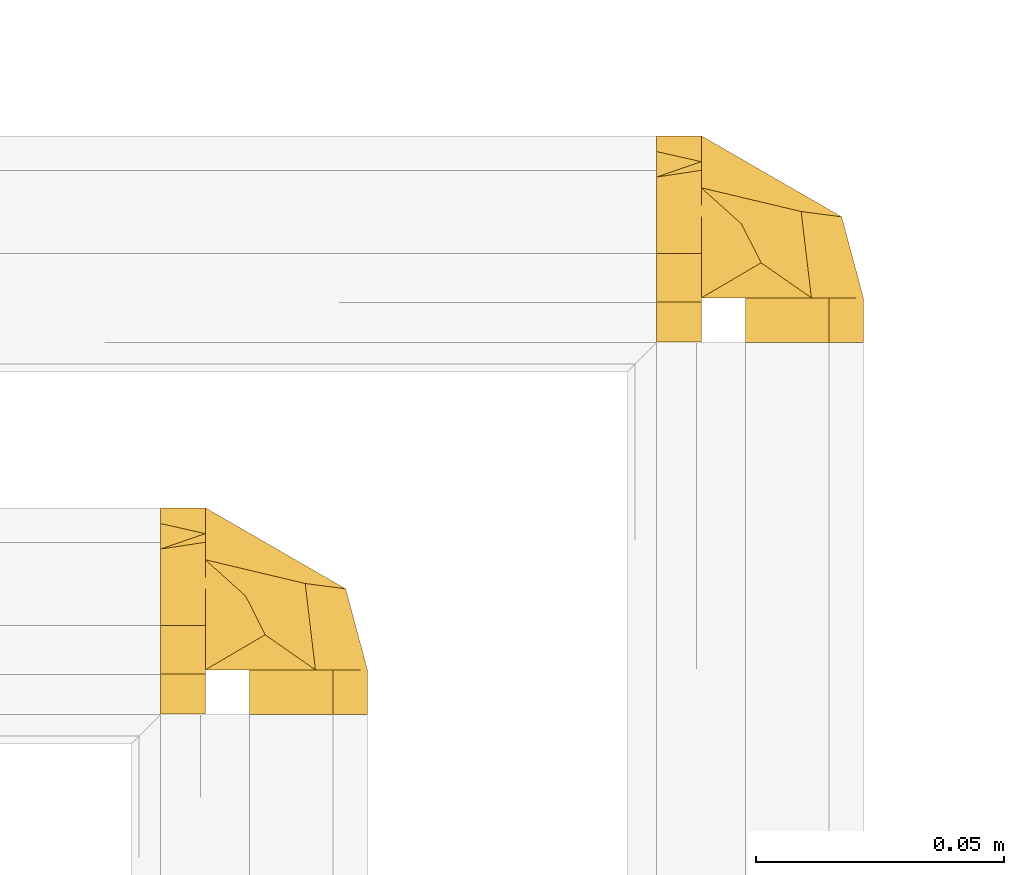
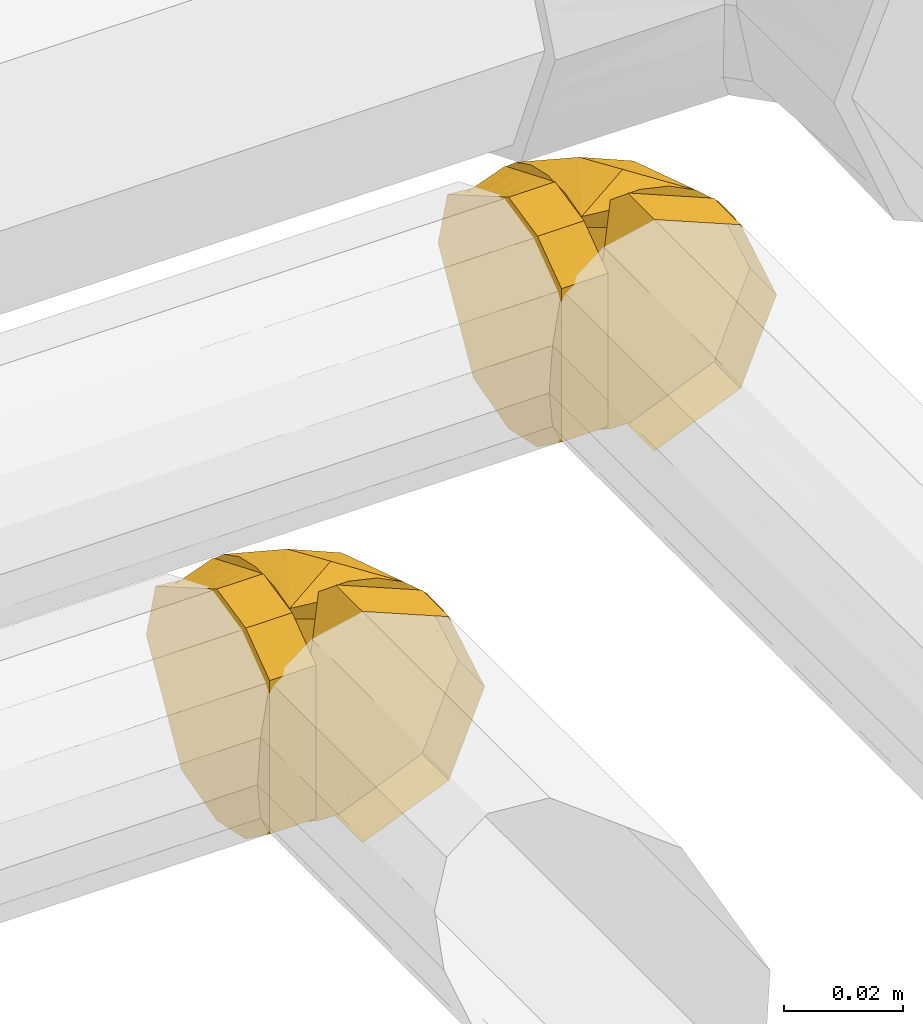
# One storey, part 373 of 652: 2 coverings.
"""IFC2X3 building model written with IfcOpenShell, lengths in millimetres."""

from ifc_helpers import new_model, entity, si_unit, converted_unit, direction, frame, origin, place, context, subcontext, project, spatial, face_set, surface_model, material, type_object, element, save


model = new_model("IFC2X3")

# Units and contexts
model_context = context("Model", 3, precision=0.01, world=frame((0.0, 0.0, 308426.39999999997)), true_north=direction((6.123233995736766e-17, 1.0)))
plan_context = context("Plan", 3, precision=0.01, world=frame((0.0, 0.0, 308426.39999999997)), true_north=direction((6.123233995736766e-17, 1.0)))
body_context = subcontext(model_context, "Body", "Model", "MODEL_VIEW")
ifc_project = project(units=[si_unit("LENGTHUNIT", "METRE", prefix="MILLI"), si_unit("AREAUNIT", "SQUARE_METRE"), si_unit("VOLUMEUNIT", "CUBIC_METRE"), converted_unit("PLANEANGLEUNIT", "DEGREE", entity("IfcPlaneAngleMeasure", 0.017453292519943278), si_unit("PLANEANGLEUNIT", "RADIAN"), dimensions=[0, 0, 0, 0, 0, 0, 0])], contexts=[model_context, plan_context])

# Site, building, storey
site_placement = place(None, origin())
site = spatial("IfcSite", under=ifc_project, at=site_placement, Name="Default", CompositionType="ELEMENT")
building_placement = place(site_placement, origin())
building = spatial("IfcBuilding", under=site, at=building_placement, CompositionType="ELEMENT")
storey_placement = place(building_placement, frame((0.0, 0.0, 1730.6999999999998)))
storey = spatial("IfcBuildingStorey", under=building, at=storey_placement, Name="EG_Produktion_FFB", CompositionType="ELEMENT", Elevation=1730.6999999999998)

# Coverings
ifc_material = material(Name="Dämmung - Armaflex-Schlauch")
covering_type = type_object("IfcCoveringType", Name="Rohrdämmung außen:Armaflex-Schlauch", PredefinedType="INSULATION")
covering_1_placement = place(storey_placement, frame((73285.61107910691, 41405.60952881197, 2539.5951524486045)))
element("IfcCovering", 1, at=covering_1_placement, inside=storey, type_object=covering_type, material=ifc_material, Name="Rohrdämmung außen:Armaflex-Schlauch", ObjectType="Rohrdämmung außen:Armaflex-Schlauch", PredefinedType="INSULATION", context=body_context, shape_type="SurfaceModel", body=[
    surface_model("IfcFaceBasedSurfaceModel", [(10.458420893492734, 10.458420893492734, 3.3372686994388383), (16.054796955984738, 10.458420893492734, 1.830340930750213), (21.84951324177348, 10.458420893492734, 1.723011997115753), (27.497853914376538, 10.458420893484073, 3.0216666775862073), (32.66381072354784, 10.458420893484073, 5.649050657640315), (37.04007144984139, 10.458420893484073, 9.448866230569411), (40.36630128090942, 10.458420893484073, 14.195070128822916), (42.44462959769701, 10.458420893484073, 19.605320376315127), (43.151420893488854, 10.458420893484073, 25.357772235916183), (42.44462959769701, 10.458420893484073, 31.11022409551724), (40.36630128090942, 10.458420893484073, 36.52047434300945), (37.04007144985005, 10.458420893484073, 41.26667824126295), (32.66381072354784, 10.458420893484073, 45.06649381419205), (27.497853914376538, 10.458420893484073, 47.693877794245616), (21.84951324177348, 10.458420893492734, 48.99253247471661), (16.054796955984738, 10.458420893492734, 48.885203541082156), (10.458420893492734, 10.458420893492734, 47.37827577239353), (10.458420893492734, 16.054796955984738, 48.885203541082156), (10.458420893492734, 21.84951324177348, 48.99253247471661), (10.458420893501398, 27.497853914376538, 47.693877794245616), (10.458420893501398, 32.66381072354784, 45.06649381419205), (10.458420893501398, 37.04007144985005, 41.26667824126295), (10.458420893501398, 40.36630128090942, 36.52047434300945), (10.458420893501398, 42.44462959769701, 31.11022409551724), (10.458420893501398, 43.151420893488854, 25.357772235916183), (10.458420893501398, 42.44462959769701, 19.605320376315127), (10.458420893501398, 40.36630128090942, 14.195070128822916), (10.458420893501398, 37.04007144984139, 9.448866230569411), (10.458420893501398, 32.66381072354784, 5.649050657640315), (10.458420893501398, 27.497853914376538, 3.0216666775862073), (10.458420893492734, 21.84951324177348, 1.723011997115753), (10.458420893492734, 16.054796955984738, 1.830340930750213), (18.579631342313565, 25.363896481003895, 2.9986616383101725), (30.592851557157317, 27.880021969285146, 9.49913694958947), (10.459196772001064, 21.433903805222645, 4.479675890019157), (37.969145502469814, 10.457829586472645, 15.617949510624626), (38.769096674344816, 26.805668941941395, 25.35776198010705), (10.459196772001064, 37.90731689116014, 15.503421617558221), (23.528166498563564, 35.60513183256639, 25.35776198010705), (22.523576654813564, 17.536467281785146, 2.1399931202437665), (21.560844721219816, 10.457829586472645, 4.493047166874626), (18.579631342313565, 25.363896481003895, 47.716862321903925), (22.523576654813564, 17.536467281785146, 48.575530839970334), (30.592851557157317, 27.880021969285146, 41.21638701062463), (37.969145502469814, 10.457829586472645, 35.09757444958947), (10.459196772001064, 21.433903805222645, 46.23584807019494), (10.459196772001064, 37.9677783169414, 35.09757444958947), (24.616472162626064, 34.97726318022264, 25.35776198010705), (21.560844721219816, 10.457829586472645, 46.222476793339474), (19.388884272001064, 1.4397753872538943, 1.595258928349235), (19.388884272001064, 10.457829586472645, 1.595258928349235), (36.19250976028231, 10.457829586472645, 8.55500853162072), (36.19250976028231, 1.4397753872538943, 8.55500853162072), (43.15022460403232, 10.457829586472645, 25.35776198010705), (43.15022460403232, 1.4397753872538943, 25.35776198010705), (36.19250976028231, 10.457829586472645, 42.16051542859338), (36.19250976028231, 1.4397753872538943, 42.16051542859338), (19.388884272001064, 10.457829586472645, 49.12026503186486), (19.388884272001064, 1.4397753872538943, 49.12026503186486), (1.4386708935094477, 24.5336530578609, 46.14995973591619), (1.4386708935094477, 29.67838522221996, 43.17964723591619), (1.4386708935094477, 34.82311738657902, 40.209334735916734), (1.4386708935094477, 39.96784955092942, 37.23902223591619), (1.4386708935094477, 41.55963522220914, 31.298397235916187), (1.4386708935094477, 43.151420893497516, 25.357772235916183), (1.4386708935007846, 40.181108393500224, 20.213040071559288), (1.4386708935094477, 37.210795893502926, 15.068307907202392), (1.4386708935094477, 34.24048339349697, 9.923575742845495), (1.4386708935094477, 31.270170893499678, 4.7788435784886), (1.4386708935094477, 25.329545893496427, 3.187057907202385), (1.4386708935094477, 19.388920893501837, 1.5952722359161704), (1.4386708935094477, 14.51024101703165, 2.643120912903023), (1.4386708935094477, 9.631561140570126, 3.6909695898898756), (1.4386708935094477, 5.613416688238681, 6.649688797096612), (1.4386708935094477, 1.5952722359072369, 9.608408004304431), (1.4386708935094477, 1.5952722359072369, 41.10713646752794), (1.4386708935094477, 5.613416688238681, 44.06585567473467), (1.4386708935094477, 9.631561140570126, 47.02457488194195), (1.4386708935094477, 14.51024101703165, 48.072423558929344), (1.4386708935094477, 19.388920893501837, 49.1202722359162), (10.458420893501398, 9.631561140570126, 47.02457488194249), (10.458420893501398, 5.504797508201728, 43.985875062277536), (10.458420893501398, 1.5952722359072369, 41.10713646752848), (10.458420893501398, 1.5952722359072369, 9.608408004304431), (10.458420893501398, 5.613416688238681, 6.649688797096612), (10.458420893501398, 9.631561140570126, 3.690969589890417), (10.458420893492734, 14.642122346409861, 2.614795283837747), (10.458420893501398, 19.388920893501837, 1.5952722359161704), (10.458420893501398, 23.589577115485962, 3.3352410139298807), (10.458420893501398, 27.79023333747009, 5.075209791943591), (10.458420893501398, 31.990889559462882, 6.8151785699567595), (10.458420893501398, 36.19154578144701, 8.55514734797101), (10.458420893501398, 37.93151455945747, 12.755803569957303), (10.458420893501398, 39.671483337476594, 16.956459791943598), (10.458420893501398, 41.41145211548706, 21.15711601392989), (10.458420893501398, 43.151420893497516, 25.357772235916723), (10.458420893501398, 41.41145211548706, 29.558428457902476), (10.458420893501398, 39.671483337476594, 33.759084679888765), (10.458420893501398, 37.93151455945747, 37.95974090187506), (10.458420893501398, 36.19154578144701, 42.1603971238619), (10.458420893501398, 31.990889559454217, 43.90036590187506), (10.458420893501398, 27.79023333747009, 45.640334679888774), (10.458420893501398, 23.589577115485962, 47.380303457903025), (10.458420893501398, 19.388920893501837, 49.1202722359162), (10.458420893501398, 14.51024101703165, 48.072423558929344)], [face_set([[[0, 1, 2, 3, 4, 5, 6, 7, 8, 9, 10, 11, 12, 13, 14, 15]], [[16, 17, 18, 19, 20, 21, 22, 23, 24, 25, 26, 27, 28, 29, 30, 31]], [[32, 28, 33]], [[32, 34, 28]], [[33, 35, 4]], [[35, 33, 36]], [[36, 8, 35]], [[33, 37, 38]], [[39, 4, 40]], [[32, 33, 39]], [[34, 32, 0]], [[4, 39, 33]], [[38, 36, 33]], [[0, 32, 39]], [[33, 28, 37]], [[37, 24, 38]], [[0, 39, 40]], [[41, 16, 42]], [[43, 44, 36]], [[20, 45, 41]], [[46, 43, 47]], [[44, 8, 36]], [[12, 43, 42]], [[44, 43, 12]], [[42, 16, 48]], [[20, 43, 46]], [[16, 41, 45]], [[43, 41, 42]], [[43, 36, 47]], [[47, 24, 46]], [[20, 41, 43]], [[48, 12, 42]]]), face_set([[[49, 50, 51, 52]], [[53, 54, 52, 51]], [[54, 53, 55, 56]], [[57, 58, 56, 55]]]), face_set([[[59, 60, 61, 62, 63, 64, 65, 66, 67, 68, 69, 70, 71, 72, 73, 74, 75, 76, 77, 78, 79]], [[80, 81, 82, 83, 84, 85, 86, 87, 88, 89, 90, 91, 92, 93, 94, 95, 96, 97, 98, 99, 100, 101, 102, 103, 104]], [[75, 74, 83, 82]], [[71, 70, 87, 86, 85, 72]], [[73, 72, 85, 84, 83, 74]], [[90, 67, 91]], [[64, 94, 65]], [[94, 93, 65]], [[69, 89, 88]], [[88, 87, 70]], [[67, 90, 68]], [[66, 93, 92]], [[64, 95, 94]], [[93, 66, 65]], [[70, 69, 88]], [[92, 91, 67]], [[90, 89, 68]], [[69, 68, 89]], [[66, 92, 67]], [[98, 61, 99]], [[79, 102, 59]], [[102, 101, 59]], [[63, 97, 96]], [[96, 95, 64]], [[61, 98, 62]], [[60, 101, 100]], [[79, 103, 102]], [[101, 60, 59]], [[64, 63, 96]], [[100, 99, 61]], [[98, 97, 62]], [[63, 62, 97]], [[60, 100, 61]], [[76, 75, 82, 81, 80, 77]], [[78, 77, 80, 104, 103, 79]]])]),
])
covering_2_placement = place(storey_placement, frame((73185.61107910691, 41330.60952881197, 2539.5951524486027)))
element("IfcCovering", 2, at=covering_2_placement, inside=storey, type_object=covering_type, material=ifc_material, Name="Rohrdämmung außen:Armaflex-Schlauch", ObjectType="Rohrdämmung außen:Armaflex-Schlauch", PredefinedType="INSULATION", context=body_context, shape_type="SurfaceModel", body=[
    surface_model("IfcFaceBasedSurfaceModel", [(10.458420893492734, 10.458420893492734, 3.337268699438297), (16.054796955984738, 10.458420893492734, 1.8303409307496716), (21.84951324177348, 10.458420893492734, 1.7230119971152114), (27.497853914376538, 10.458420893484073, 3.021666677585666), (32.66381072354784, 10.458420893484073, 5.6490506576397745), (37.04007144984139, 10.458420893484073, 9.44886623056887), (40.36630128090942, 10.458420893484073, 14.195070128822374), (42.44462959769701, 10.458420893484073, 19.605320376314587), (43.151420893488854, 10.458420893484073, 25.35777223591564), (42.44462959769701, 10.458420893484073, 31.110224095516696), (40.36630128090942, 10.458420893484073, 36.52047434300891), (37.04007144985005, 10.458420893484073, 41.26667824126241), (32.66381072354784, 10.458420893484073, 45.06649381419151), (27.497853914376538, 10.458420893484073, 47.693877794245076), (21.84951324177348, 10.458420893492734, 48.99253247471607), (16.054796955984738, 10.458420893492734, 48.88520354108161), (10.458420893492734, 10.458420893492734, 47.37827577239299), (10.458420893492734, 16.054796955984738, 48.88520354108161), (10.458420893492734, 21.84951324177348, 48.99253247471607), (10.458420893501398, 27.497853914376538, 47.693877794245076), (10.458420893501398, 32.66381072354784, 45.06649381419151), (10.458420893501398, 37.04007144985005, 41.26667824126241), (10.458420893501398, 40.36630128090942, 36.52047434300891), (10.458420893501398, 42.44462959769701, 31.110224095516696), (10.458420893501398, 43.151420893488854, 25.35777223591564), (10.458420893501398, 42.44462959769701, 19.605320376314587), (10.458420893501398, 40.36630128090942, 14.195070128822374), (10.458420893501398, 37.04007144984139, 9.44886623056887), (10.458420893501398, 32.66381072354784, 5.6490506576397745), (10.458420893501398, 27.497853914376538, 3.021666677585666), (10.458420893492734, 21.84951324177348, 1.7230119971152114), (10.458420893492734, 16.054796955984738, 1.8303409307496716), (18.581083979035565, 25.363823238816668, 2.9986616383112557), (30.594304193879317, 27.87994872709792, 9.499136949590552), (10.460649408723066, 21.433830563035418, 4.47967589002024), (37.970598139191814, 10.457756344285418, 15.61794951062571), (38.770549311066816, 26.805595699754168, 25.35776198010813), (10.460649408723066, 37.907243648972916, 15.503421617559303), (23.524968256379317, 35.605058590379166, 25.35776198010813), (22.525029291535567, 17.53639403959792, 2.1399931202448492), (21.562297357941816, 10.457756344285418, 4.493047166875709), (18.581083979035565, 25.363823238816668, 47.716862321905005), (22.525029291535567, 17.53639403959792, 48.575530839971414), (30.594304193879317, 27.87994872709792, 41.21638701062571), (37.970598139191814, 10.457756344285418, 35.09757444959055), (10.460649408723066, 21.433830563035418, 46.23584807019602), (10.460649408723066, 37.96770507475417, 35.09757444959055), (24.613273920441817, 34.977189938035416, 25.35776198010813), (21.562297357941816, 10.457756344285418, 46.222476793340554), (19.390336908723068, 1.4397021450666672, 1.595258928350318), (19.390336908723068, 10.457756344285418, 1.595258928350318), (36.189311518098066, 10.457756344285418, 8.555008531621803), (36.189311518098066, 1.4397021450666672, 8.555008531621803), (43.15167724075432, 10.457756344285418, 25.35776198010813), (43.15167724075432, 1.4397021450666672, 25.35776198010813), (36.189311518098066, 10.457756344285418, 42.16051542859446), (36.189311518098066, 1.4397021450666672, 42.16051542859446), (19.390336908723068, 10.457756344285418, 49.12026503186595), (19.390336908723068, 1.4397021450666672, 49.12026503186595), (1.4386708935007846, 24.5336530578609, 46.14995973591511), (1.4386708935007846, 29.67838522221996, 43.17964723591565), (1.4386708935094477, 34.82311738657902, 40.209334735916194), (1.4386708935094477, 39.96784955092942, 37.23902223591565), (1.4386708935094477, 41.55963522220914, 31.298397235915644), (1.4386708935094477, 43.151420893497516, 25.35777223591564), (1.4386708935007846, 40.181108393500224, 20.213040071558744), (1.4386708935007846, 37.210795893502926, 15.06830790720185), (1.4386708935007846, 34.24048339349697, 9.923575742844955), (1.4386708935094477, 31.270170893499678, 4.7788435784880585), (1.4386708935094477, 25.329545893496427, 3.1870579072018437), (1.4386708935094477, 19.388920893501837, 1.595272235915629), (1.4386708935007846, 14.51024101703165, 2.6431209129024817), (1.4386708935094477, 9.631561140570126, 3.690969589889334), (1.4386708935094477, 5.613416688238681, 6.649688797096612), (1.4386708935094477, 1.5952722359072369, 9.608408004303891), (1.4386708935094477, 1.5952722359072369, 41.10713646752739), (1.4386708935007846, 5.613416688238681, 44.06585567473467), (1.4386708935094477, 9.631561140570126, 47.024574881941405), (1.4386708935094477, 14.51024101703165, 48.07242355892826), (1.4386708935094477, 19.388920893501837, 49.12027223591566), (10.458420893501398, 9.631561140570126, 47.02457488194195), (10.458420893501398, 5.504797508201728, 43.985875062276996), (10.458420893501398, 1.5952722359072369, 41.10713646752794), (10.458420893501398, 1.5952722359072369, 9.608408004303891), (10.458420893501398, 5.613416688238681, 6.649688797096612), (10.458420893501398, 9.631561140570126, 3.6909695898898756), (10.458420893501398, 14.642122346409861, 2.614795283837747), (10.458420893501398, 19.388920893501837, 1.595272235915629), (10.458420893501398, 23.589577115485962, 3.335241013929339), (10.458420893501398, 27.79023333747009, 5.075209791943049), (10.458420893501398, 31.990889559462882, 6.8151785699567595), (10.458420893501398, 36.19154578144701, 8.55514734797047), (10.458420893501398, 37.93151455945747, 12.755803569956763), (10.458420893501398, 39.671483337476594, 16.956459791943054), (10.458420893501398, 41.41145211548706, 21.157116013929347), (10.458420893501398, 43.151420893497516, 25.357772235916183), (10.458420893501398, 41.41145211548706, 29.558428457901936), (10.458420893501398, 39.671483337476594, 33.759084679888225), (10.458420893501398, 37.93151455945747, 37.95974090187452), (10.458420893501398, 36.19154578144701, 42.16039712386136), (10.458420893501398, 31.990889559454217, 43.90036590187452), (10.458420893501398, 27.79023333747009, 45.640334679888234), (10.458420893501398, 23.589577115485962, 47.380303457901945), (10.458420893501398, 19.388920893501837, 49.12027223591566), (10.458420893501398, 14.51024101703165, 48.07242355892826)], [face_set([[[0, 1, 2, 3, 4, 5, 6, 7, 8, 9, 10, 11, 12, 13, 14, 15]], [[16, 17, 18, 19, 20, 21, 22, 23, 24, 25, 26, 27, 28, 29, 30, 31]], [[32, 28, 33]], [[32, 34, 28]], [[33, 35, 4]], [[35, 33, 36]], [[36, 8, 35]], [[33, 37, 38]], [[39, 4, 40]], [[32, 33, 39]], [[34, 32, 0]], [[4, 39, 33]], [[38, 36, 33]], [[0, 32, 39]], [[33, 28, 37]], [[37, 24, 38]], [[0, 39, 40]], [[41, 16, 42]], [[43, 44, 36]], [[20, 45, 41]], [[46, 43, 47]], [[44, 8, 36]], [[12, 43, 42]], [[44, 43, 12]], [[42, 16, 48]], [[20, 43, 46]], [[16, 41, 45]], [[43, 41, 42]], [[43, 36, 47]], [[47, 24, 46]], [[20, 41, 43]], [[48, 12, 42]]]), face_set([[[49, 50, 51, 52]], [[53, 54, 52, 51]], [[54, 53, 55, 56]], [[57, 58, 56, 55]]]), face_set([[[59, 60, 61, 62, 63, 64, 65, 66, 67, 68, 69, 70, 71, 72, 73, 74, 75, 76, 77, 78, 79]], [[80, 81, 82, 83, 84, 85, 86, 87, 88, 89, 90, 91, 92, 93, 94, 95, 96, 97, 98, 99, 100, 101, 102, 103, 104]], [[75, 74, 83, 82]], [[71, 70, 87, 86, 85, 72]], [[73, 72, 85, 84, 83, 74]], [[90, 67, 91]], [[64, 94, 65]], [[94, 93, 65]], [[69, 89, 88]], [[88, 87, 70]], [[67, 90, 68]], [[66, 93, 92]], [[64, 95, 94]], [[93, 66, 65]], [[70, 69, 88]], [[92, 91, 67]], [[90, 89, 68]], [[69, 68, 89]], [[66, 92, 67]], [[98, 61, 99]], [[79, 102, 59]], [[102, 101, 59]], [[63, 97, 96]], [[96, 95, 64]], [[61, 98, 62]], [[60, 101, 100]], [[79, 103, 102]], [[101, 60, 59]], [[64, 63, 96]], [[100, 99, 61]], [[98, 97, 62]], [[63, 62, 97]], [[60, 100, 61]], [[76, 75, 82, 81, 80, 77]], [[78, 77, 80, 104, 103, 79]]])]),
])

save(model, "model.ifc")
